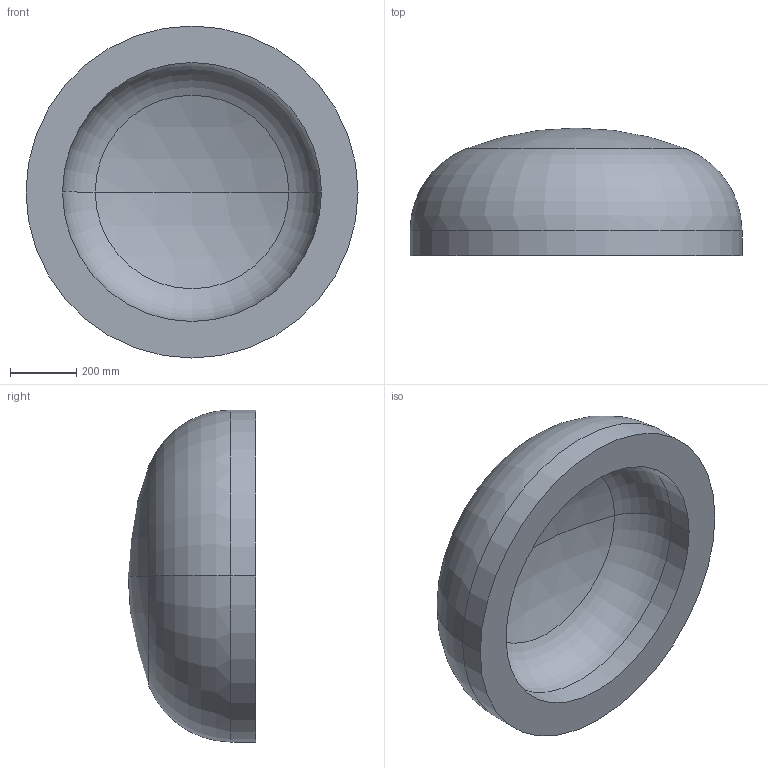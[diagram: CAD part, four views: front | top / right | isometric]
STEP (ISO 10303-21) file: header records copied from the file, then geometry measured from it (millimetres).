
FILE_DESCRIPTION (( 'STEP AP203' ), '1' );
FILE_NAME ('DIN 28013 Korbbogenform_-_Boden DIN 28013 - 1000 x 75 - I - s=110.step', '2016-07-01T08:57:39', ( '' ), ( '' ), 'SwSTEP 2.0', 'SolidWorks 2013', '' );
FILE_SCHEMA (( 'CONFIG_CONTROL_DESIGN' ));
Length unit declared in the file: millimetre
Products named in the file (1): DIN 28013 Korbbogenform_-_Boden DIN 28013 - 1000 x 75 - I - s=110
Bounding box: 1000 x 384.33 x 1000 mm (x, y, z)
Volume: 127734019.9 mm3; surface area: 2655340.5 mm2
Topology: 1 solids, 1 shells, 13 faces, 24 edges, 14 vertices
Faces by surface type: torus 4, cylinder 4, sphere 4, plane 1
Entity records: 407 total; most frequent: DIRECTION 72, CARTESIAN_POINT 52, ORIENTED_EDGE 48, AXIS2_PLACEMENT_3D 34, EDGE_CURVE 24, CIRCLE 20, VERTEX_POINT 14, EDGE_LOOP 14
